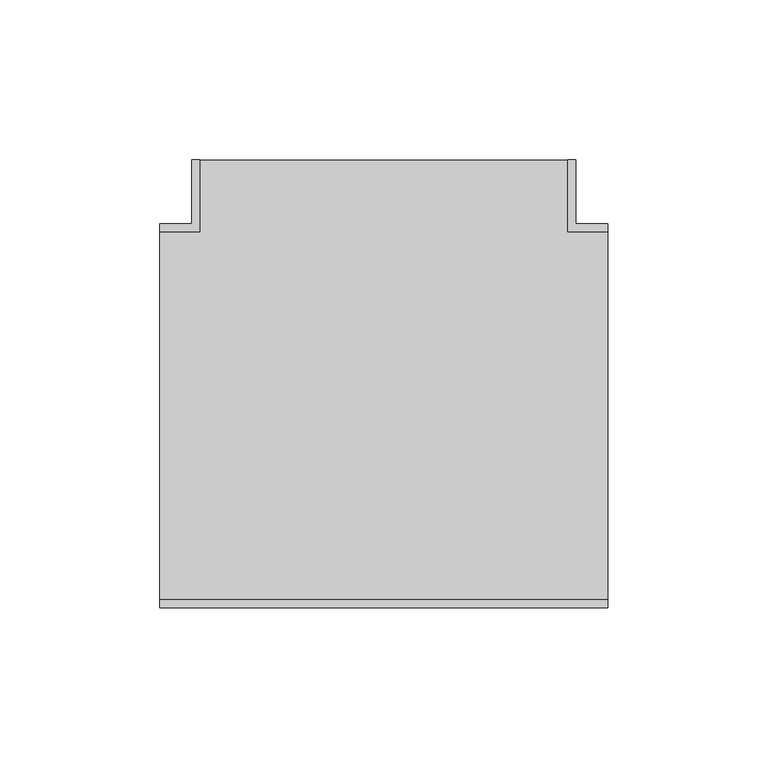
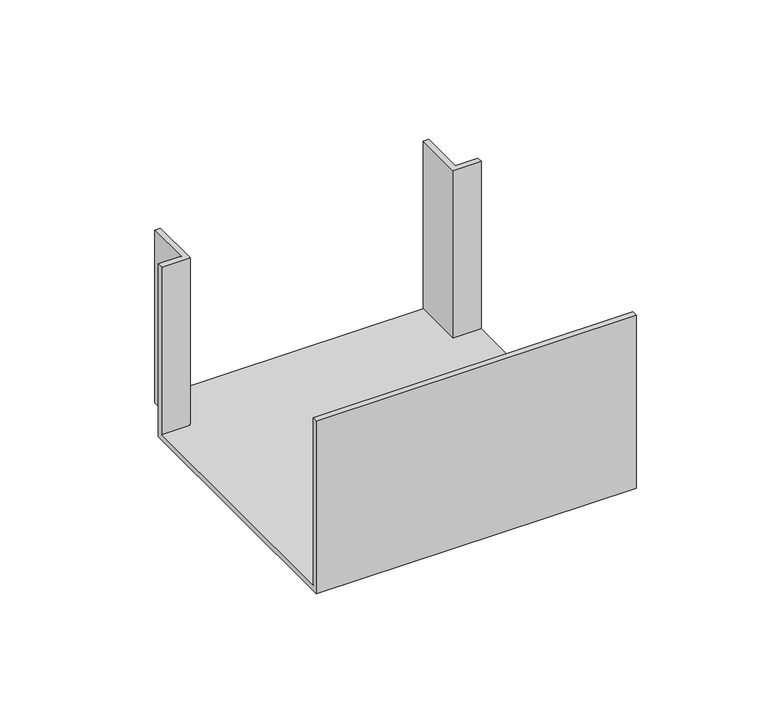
"""IFC4 building model written with IfcOpenShell, lengths in millimetres: cable carrier fitting geometry, КНС_ТройникNTAN_ILC_DKC : Тройник/отвод."""

from ifc_helpers import new_model, si_unit, origin, place, context, project, spatial, faceted_brep, source, transform, mapped, element, save


def cable_carrier_fitting_59f07115(model_context):
    return source(origin(), model_context, "Body", "Brep", [
        faceted_brep([(70.0, -57.5, -37.5), (70.0, 57.5, -37.5), (57.5, 57.5, -37.5), (57.5, 80.0, -37.5), (-57.5, 80.0, -37.5), (-57.5, 57.5, -37.5), (-70.0, 57.5, -37.5), (-70.0, -57.5, -37.5), (70.0, -60.0, -40.0), (-70.0, -60.0, -40.0), (-70.0, 60.0, -40.0), (-60.0, 60.0, -40.0), (-60.0, 80.0, -40.0), (60.0, 80.0, -40.0), (60.0, 60.0, -40.0), (70.0, 60.0, -40.0), (70.0, 60.0, 40.0), (70.0, 57.5, 40.0), (70.0, -57.5, 40.0), (70.0, -60.0, 40.0), (60.0, 60.0, 40.0), (60.0, 80.0, 40.0), (-60.0, 80.0, 40.0), (-57.5, 80.0, 40.0), (57.5, 80.0, 40.0), (-60.0, 60.0, 40.0), (-70.0, 60.0, 40.0), (-70.0, -60.0, 40.0), (-70.0, -57.5, 40.0), (-70.0, 57.5, 40.0), (57.5, 57.5, 40.0), (-57.5, 57.5, 40.0)], [[[0, 1, 2, 3, 4, 5, 6, 7]], [[8, 9, 10, 11, 12, 13, 14, 15]], [[8, 15, 16, 17, 1, 0, 18, 19]], [[16, 15, 14, 20]], [[20, 14, 13, 21]], [[21, 13, 12, 22, 23, 4, 3, 24]], [[22, 12, 11, 25]], [[25, 11, 10, 26]], [[26, 10, 9, 27, 28, 7, 6, 29]], [[27, 9, 8, 19]], [[20, 21, 24, 30, 17, 16]], [[25, 26, 29, 31, 23, 22]], [[27, 19, 18, 28]], [[31, 29, 6, 5]], [[23, 31, 5, 4]], [[30, 24, 3, 2]], [[17, 30, 2, 1]], [[28, 18, 0, 7]]]),
    ])


if __name__ == "__main__":
    model = new_model("IFC4")
    model_context = context("Model", 3, world=origin())
    ifc_project = project(units=[si_unit("LENGTHUNIT", "METRE", prefix="MILLI")], contexts=[model_context])
    site = spatial("IfcSite", under=ifc_project)
    building = spatial("IfcBuilding", under=site)
    placement = place(None, origin())
    cable_carrier_fitting_shape = cable_carrier_fitting_59f07115(model_context)
    element("IfcCableCarrierFitting", 1, ObjectType="КНС_ТройникNTAN_ILC_DKC : Тройник/отвод", at=placement, inside=building, context=model_context, shape_type="MappedRepresentation", body=[
        mapped(cable_carrier_fitting_shape, transform((0.0, 0.0, 0.0), x_axis=(1.0, 0.0, 0.0), y_axis=(0.0, 1.0, 0.0), z_axis=(0.0, 0.0, 1.0))),
    ])
    save(model, "model.ifc")
